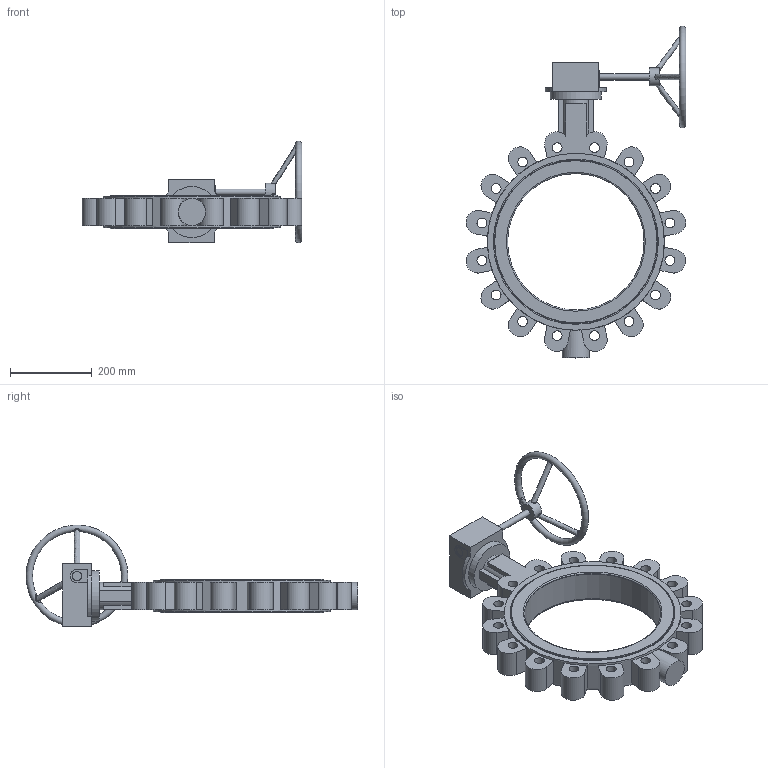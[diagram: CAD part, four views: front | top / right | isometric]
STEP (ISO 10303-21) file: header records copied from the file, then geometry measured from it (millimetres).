
FILE_DESCRIPTION (( 'STEP AP203' ), '1' );
FILE_NAME ('2502 LT型中线衬胶带销 手动头蝶阀 DN350 PN16 CD0309124.STEP', '2026-03-31T01:21:00', ( '' ), ( '' ), 'SwSTEP 2.0', 'SolidWorks 2018', '' );
FILE_SCHEMA (( 'CONFIG_CONTROL_DESIGN' ));
Length unit declared in the file: millimetre
Products named in the file (4): 2502 LT型中线衬胶带销 手动头蝶阀 DN350 PN16 CD0309124; GALA-D350-01LC16-00; 00. G55 手动头装配图 YN 简化; GALA-D350-04AZC-00
Assembly tree (3 placements, depth 2):
  2502 LT型中线衬胶带销 手动头蝶阀 DN350 PN16 CD0309124
    GALA-D350-04AZC-00
    GALA-D350-01LC16-00
    00. G55 手动头装配图 YN 简化
Bounding box: 539.28 x 813.95 x 249.56 mm (x, y, z)
Volume: 9807311.4 mm3; surface area: 1089065.5 mm2
Topology: 3 solids, 11 shells, 210 faces, 502 edges, 329 vertices
Faces by surface type: plane 119, cylinder 60, torus 13, bspline 9, cone 8, sphere 1
Full cylindrical faces by diameter (mm): 15 x1, 22 x2, 24 x16, 44.015 x1, 67 x1, 125 x1, 334.636 x1, 345 x2, 400 x2, 405 x2, 434 x1
Entity records: 8444 total; most frequent: CARTESIAN_POINT 3397, DIRECTION 968, ORIENTED_EDGE 852, EDGE_CURVE 426, AXIS2_PLACEMENT_3D 372, EDGE_LOOP 322, VERTEX_POINT 310, FACE_OUTER_BOUND 255
